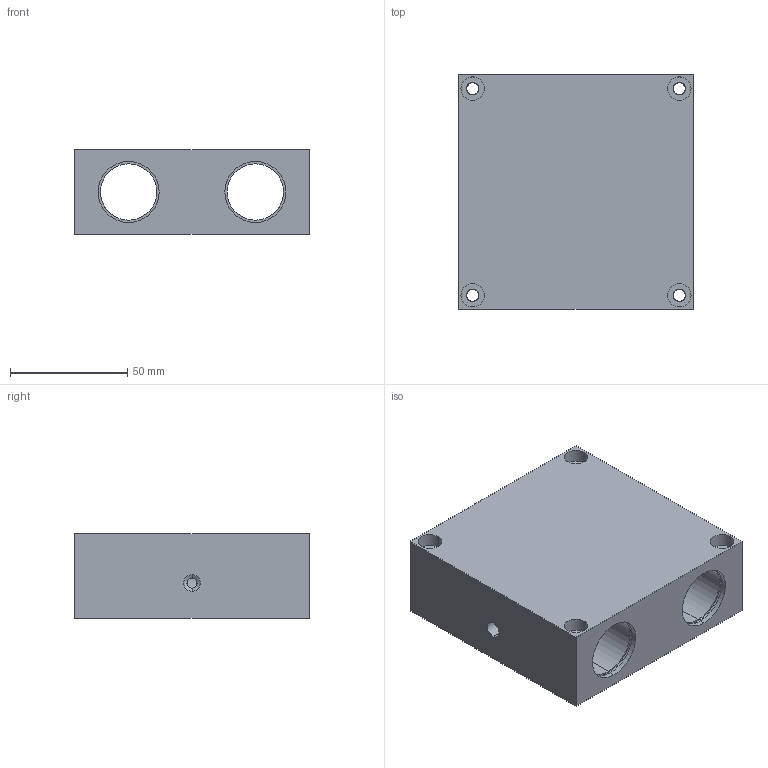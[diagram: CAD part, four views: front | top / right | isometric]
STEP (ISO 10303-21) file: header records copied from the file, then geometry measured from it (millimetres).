
FILE_DESCRIPTION (( 'STEP AP214' ), '1' );
FILE_NAME ('KQSG-16.step', '2020-03-04T13:33:09', ( '' ), ( '' ), 'SwSTEP 2.0', 'SolidWorks 2019', '' );
FILE_SCHEMA (( 'AUTOMOTIVE_DESIGN' ));
Length unit declared in the file: millimetre
Products named in the file (1): KQSG-16
Bounding box: 100 x 100 x 36 mm (x, y, z)
Volume: 251779 mm3; surface area: 52001.6 mm2
Topology: 1 solids, 1 shells, 96 faces, 210 edges, 135 vertices
Faces by surface type: cylinder 62, plane 26, cone 8
Entity records: 2970 total; most frequent: CARTESIAN_POINT 554, DIRECTION 520, ORIENTED_EDGE 416, AXIS2_PLACEMENT_3D 219, EDGE_CURVE 208, VERTEX_POINT 135, EDGE_LOOP 133, CIRCLE 122
